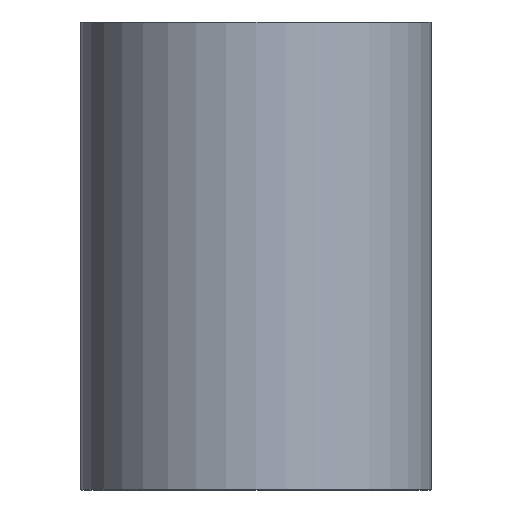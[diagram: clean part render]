
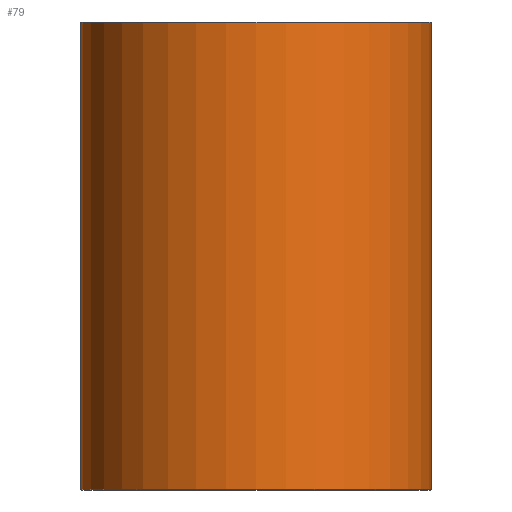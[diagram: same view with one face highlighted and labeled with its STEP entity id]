
A CAD part, front view. The second image highlights one B-rep face of the part: STEP entity #79.
In plain terms, the highlighted cylindrical face has radius 37.5 mm (diameter 75 mm), a full revolution.
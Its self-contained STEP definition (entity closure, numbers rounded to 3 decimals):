
#79=ADVANCED_FACE('',(#96,#97),#98,.T.);
#96=FACE_OUTER_BOUND('',#120,.T.);
#97=FACE_OUTER_BOUND('',#121,.T.);
#98=CYLINDRICAL_SURFACE('',#122,37.5);
#120=EDGE_LOOP('',(#152));
#121=EDGE_LOOP('',(#153));
#122=AXIS2_PLACEMENT_3D('',#154,#155,#156);
#152=ORIENTED_EDGE('',*,*,#178,.T.);
#153=ORIENTED_EDGE('',*,*,#177,.T.);
#154=CARTESIAN_POINT('',(0.,0.0,100.0));
#155=DIRECTION('',(0.0,0.0,-1.0));
#156=DIRECTION('',(-1.0,0.0,0.0));
#177=EDGE_CURVE('',#190,#190,#191,.T.);
#178=EDGE_CURVE('',#192,#192,#193,.F.);
#190=VERTEX_POINT('',#206);
#191=CIRCLE('',#207,37.5);
#192=VERTEX_POINT('',#208);
#193=CIRCLE('',#209,37.5);
#206=CARTESIAN_POINT('',(37.5,0.0,0.2));
#207=AXIS2_PLACEMENT_3D('',#227,#228,#229);
#208=CARTESIAN_POINT('',(37.5,0.,99.8));
#209=AXIS2_PLACEMENT_3D('',#230,#231,#232);
#227=CARTESIAN_POINT('',(0.,0.0,0.2));
#228=DIRECTION('',(0.0,0.0,1.0));
#229=DIRECTION('',(1.0,0.0,0.0));
#230=CARTESIAN_POINT('',(0.,0.0,99.8));
#231=DIRECTION('',(0.0,0.0,1.0));
#232=DIRECTION('',(1.0,0.0,0.0));
